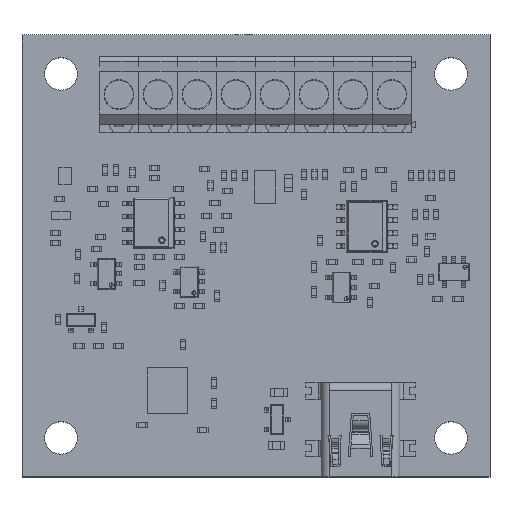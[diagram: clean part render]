
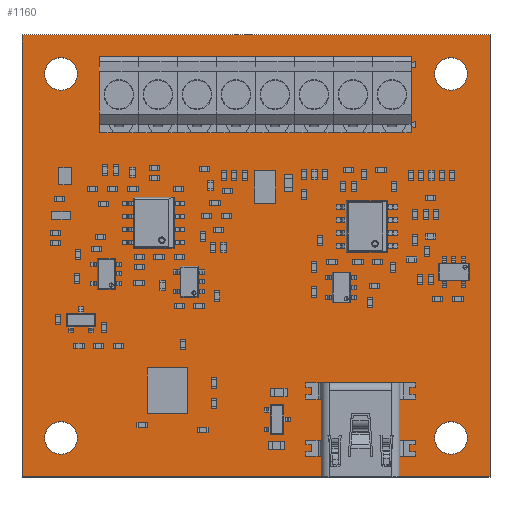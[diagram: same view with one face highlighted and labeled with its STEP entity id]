
A CAD part, top view. The second image highlights one B-rep face of the part: STEP entity #1160.
In plain terms, the highlighted planar face has unit normal (0, 0, 1).
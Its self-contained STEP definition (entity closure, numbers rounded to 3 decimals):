
#495 = VERTEX_POINT('',#496);
#496 = CARTESIAN_POINT('',(25.4,0.,0.));
#502 = EDGE_CURVE('',#495,#503,#505,.T.);
#503 = VERTEX_POINT('',#504);
#504 = CARTESIAN_POINT('',(45.72,0.,0.));
#505 = LINE('',#506,#507);
#506 = CARTESIAN_POINT('',(25.4,0.,0.));
#507 = VECTOR('',#508,1.);
#508 = DIRECTION('',(1.,0.,0.));
#533 = EDGE_CURVE('',#503,#534,#536,.T.);
#534 = VERTEX_POINT('',#535);
#535 = CARTESIAN_POINT('',(45.72,43.18,0.));
#536 = LINE('',#537,#538);
#537 = CARTESIAN_POINT('',(45.72,0.,0.));
#538 = VECTOR('',#539,1.);
#539 = DIRECTION('',(0.,1.,0.));
#564 = EDGE_CURVE('',#534,#565,#567,.T.);
#565 = VERTEX_POINT('',#566);
#566 = CARTESIAN_POINT('',(0.,43.18,0.));
#567 = LINE('',#568,#569);
#568 = CARTESIAN_POINT('',(45.72,43.18,0.));
#569 = VECTOR('',#570,1.);
#570 = DIRECTION('',(-1.,0.,0.));
#595 = EDGE_CURVE('',#565,#596,#598,.T.);
#596 = VERTEX_POINT('',#597);
#597 = CARTESIAN_POINT('',(0.,0.,0.));
#598 = LINE('',#599,#600);
#599 = CARTESIAN_POINT('',(0.,43.18,0.));
#600 = VECTOR('',#601,1.);
#601 = DIRECTION('',(0.,-1.,0.));
#626 = EDGE_CURVE('',#596,#495,#627,.T.);
#627 = LINE('',#628,#629);
#628 = CARTESIAN_POINT('',(0.,0.,0.));
#629 = VECTOR('',#630,1.);
#630 = DIRECTION('',(1.,0.,0.));
#650 = VERTEX_POINT('',#651);
#651 = CARTESIAN_POINT('',(5.398,3.81,0.));
#657 = EDGE_CURVE('',#650,#650,#658,.T.);
#658 = CIRCLE('',#659,1.588);
#659 = AXIS2_PLACEMENT_3D('',#660,#661,#662);
#660 = CARTESIAN_POINT('',(3.81,3.81,0.));
#661 = DIRECTION('',(0.,0.,1.));
#662 = DIRECTION('',(1.,0.,0.));
#683 = VERTEX_POINT('',#684);
#684 = CARTESIAN_POINT('',(13.995,37.211,0.));
#690 = EDGE_CURVE('',#683,#683,#691,.T.);
#691 = CIRCLE('',#692,0.66);
#692 = AXIS2_PLACEMENT_3D('',#693,#694,#695);
#693 = CARTESIAN_POINT('',(13.335,37.211,0.));
#694 = DIRECTION('',(0.,0.,1.));
#695 = DIRECTION('',(1.,0.,0.));
#716 = VERTEX_POINT('',#717);
#717 = CARTESIAN_POINT('',(10.185,37.211,0.));
#723 = EDGE_CURVE('',#716,#716,#724,.T.);
#724 = CIRCLE('',#725,0.66);
#725 = AXIS2_PLACEMENT_3D('',#726,#727,#728);
#726 = CARTESIAN_POINT('',(9.525,37.211,0.));
#727 = DIRECTION('',(0.,0.,1.));
#728 = DIRECTION('',(1.,0.,0.));
#749 = VERTEX_POINT('',#750);
#750 = CARTESIAN_POINT('',(17.805,37.211,0.));
#756 = EDGE_CURVE('',#749,#749,#757,.T.);
#757 = CIRCLE('',#758,0.66);
#758 = AXIS2_PLACEMENT_3D('',#759,#760,#761);
#759 = CARTESIAN_POINT('',(17.145,37.211,0.));
#760 = DIRECTION('',(0.,0.,1.));
#761 = DIRECTION('',(1.,0.,0.));
#782 = VERTEX_POINT('',#783);
#783 = CARTESIAN_POINT('',(5.398,39.37,0.));
#789 = EDGE_CURVE('',#782,#782,#790,.T.);
#790 = CIRCLE('',#791,1.588);
#791 = AXIS2_PLACEMENT_3D('',#792,#793,#794);
#792 = CARTESIAN_POINT('',(3.81,39.37,0.));
#793 = DIRECTION('',(0.,0.,1.));
#794 = DIRECTION('',(1.,0.,0.));
#815 = VERTEX_POINT('',#816);
#816 = CARTESIAN_POINT('',(25.425,37.211,0.));
#822 = EDGE_CURVE('',#815,#815,#823,.T.);
#823 = CIRCLE('',#824,0.66);
#824 = AXIS2_PLACEMENT_3D('',#825,#826,#827);
#825 = CARTESIAN_POINT('',(24.765,37.211,0.));
#826 = DIRECTION('',(0.,0.,1.));
#827 = DIRECTION('',(1.,0.,0.));
#848 = VERTEX_POINT('',#849);
#849 = CARTESIAN_POINT('',(21.615,37.211,0.));
#855 = EDGE_CURVE('',#848,#848,#856,.T.);
#856 = CIRCLE('',#857,0.66);
#857 = AXIS2_PLACEMENT_3D('',#858,#859,#860);
#858 = CARTESIAN_POINT('',(20.955,37.211,0.));
#859 = DIRECTION('',(0.,0.,1.));
#860 = DIRECTION('',(1.,0.,0.));
#881 = VERTEX_POINT('',#882);
#882 = CARTESIAN_POINT('',(31.396,5.985,0.));
#888 = EDGE_CURVE('',#881,#881,#889,.T.);
#889 = CIRCLE('',#890,0.5);
#890 = AXIS2_PLACEMENT_3D('',#891,#892,#893);
#891 = CARTESIAN_POINT('',(30.896,5.985,0.));
#892 = DIRECTION('',(0.,0.,1.));
#893 = DIRECTION('',(1.,0.,0.));
#914 = VERTEX_POINT('',#915);
#915 = CARTESIAN_POINT('',(43.498,3.81,0.));
#921 = EDGE_CURVE('',#914,#914,#922,.T.);
#922 = CIRCLE('',#923,1.588);
#923 = AXIS2_PLACEMENT_3D('',#924,#925,#926);
#924 = CARTESIAN_POINT('',(41.91,3.81,0.));
#925 = DIRECTION('',(0.,0.,1.));
#926 = DIRECTION('',(1.,0.,0.));
#947 = VERTEX_POINT('',#948);
#948 = CARTESIAN_POINT('',(35.796,5.985,0.));
#954 = EDGE_CURVE('',#947,#947,#955,.T.);
#955 = CIRCLE('',#956,0.5);
#956 = AXIS2_PLACEMENT_3D('',#957,#958,#959);
#957 = CARTESIAN_POINT('',(35.296,5.985,0.));
#958 = DIRECTION('',(0.,0.,1.));
#959 = DIRECTION('',(1.,0.,0.));
#980 = VERTEX_POINT('',#981);
#981 = CARTESIAN_POINT('',(33.045,37.211,0.));
#987 = EDGE_CURVE('',#980,#980,#988,.T.);
#988 = CIRCLE('',#989,0.66);
#989 = AXIS2_PLACEMENT_3D('',#990,#991,#992);
#990 = CARTESIAN_POINT('',(32.385,37.211,0.));
#991 = DIRECTION('',(0.,0.,1.));
#992 = DIRECTION('',(1.,0.,0.));
#1013 = VERTEX_POINT('',#1014);
#1014 = CARTESIAN_POINT('',(29.235,37.211,0.));
#1020 = EDGE_CURVE('',#1013,#1013,#1021,.T.);
#1021 = CIRCLE('',#1022,0.66);
#1022 = AXIS2_PLACEMENT_3D('',#1023,#1024,#1025);
#1023 = CARTESIAN_POINT('',(28.575,37.211,0.));
#1024 = DIRECTION('',(0.,0.,1.));
#1025 = DIRECTION('',(1.,0.,0.));
#1046 = VERTEX_POINT('',#1047);
#1047 = CARTESIAN_POINT('',(36.855,37.211,0.));
#1053 = EDGE_CURVE('',#1046,#1046,#1054,.T.);
#1054 = CIRCLE('',#1055,0.66);
#1055 = AXIS2_PLACEMENT_3D('',#1056,#1057,#1058);
#1056 = CARTESIAN_POINT('',(36.195,37.211,0.));
#1057 = DIRECTION('',(0.,0.,1.));
#1058 = DIRECTION('',(1.,0.,0.));
#1079 = VERTEX_POINT('',#1080);
#1080 = CARTESIAN_POINT('',(43.498,39.37,0.));
#1086 = EDGE_CURVE('',#1079,#1079,#1087,.T.);
#1087 = CIRCLE('',#1088,1.588);
#1088 = AXIS2_PLACEMENT_3D('',#1089,#1090,#1091);
#1089 = CARTESIAN_POINT('',(41.91,39.37,0.));
#1090 = DIRECTION('',(0.,0.,1.));
#1091 = DIRECTION('',(1.,0.,0.));
#1160 = ADVANCED_FACE('',(#1161,#1168,#1171,#1174,#1177,#1180,#1183,
    #1186,#1189,#1192,#1195,#1198,#1201,#1204,#1207),#1210,.F.);
#1161 = FACE_BOUND('',#1162,.T.);
#1162 = EDGE_LOOP('',(#1163,#1164,#1165,#1166,#1167));
#1163 = ORIENTED_EDGE('',*,*,#502,.T.);
#1164 = ORIENTED_EDGE('',*,*,#533,.T.);
#1165 = ORIENTED_EDGE('',*,*,#564,.T.);
#1166 = ORIENTED_EDGE('',*,*,#595,.T.);
#1167 = ORIENTED_EDGE('',*,*,#626,.T.);
#1168 = FACE_BOUND('',#1169,.F.);
#1169 = EDGE_LOOP('',(#1170));
#1170 = ORIENTED_EDGE('',*,*,#657,.T.);
#1171 = FACE_BOUND('',#1172,.F.);
#1172 = EDGE_LOOP('',(#1173));
#1173 = ORIENTED_EDGE('',*,*,#690,.T.);
#1174 = FACE_BOUND('',#1175,.F.);
#1175 = EDGE_LOOP('',(#1176));
#1176 = ORIENTED_EDGE('',*,*,#723,.T.);
#1177 = FACE_BOUND('',#1178,.F.);
#1178 = EDGE_LOOP('',(#1179));
#1179 = ORIENTED_EDGE('',*,*,#756,.T.);
#1180 = FACE_BOUND('',#1181,.F.);
#1181 = EDGE_LOOP('',(#1182));
#1182 = ORIENTED_EDGE('',*,*,#789,.T.);
#1183 = FACE_BOUND('',#1184,.F.);
#1184 = EDGE_LOOP('',(#1185));
#1185 = ORIENTED_EDGE('',*,*,#822,.T.);
#1186 = FACE_BOUND('',#1187,.F.);
#1187 = EDGE_LOOP('',(#1188));
#1188 = ORIENTED_EDGE('',*,*,#855,.T.);
#1189 = FACE_BOUND('',#1190,.F.);
#1190 = EDGE_LOOP('',(#1191));
#1191 = ORIENTED_EDGE('',*,*,#888,.T.);
#1192 = FACE_BOUND('',#1193,.F.);
#1193 = EDGE_LOOP('',(#1194));
#1194 = ORIENTED_EDGE('',*,*,#921,.T.);
#1195 = FACE_BOUND('',#1196,.F.);
#1196 = EDGE_LOOP('',(#1197));
#1197 = ORIENTED_EDGE('',*,*,#954,.T.);
#1198 = FACE_BOUND('',#1199,.F.);
#1199 = EDGE_LOOP('',(#1200));
#1200 = ORIENTED_EDGE('',*,*,#987,.T.);
#1201 = FACE_BOUND('',#1202,.F.);
#1202 = EDGE_LOOP('',(#1203));
#1203 = ORIENTED_EDGE('',*,*,#1020,.T.);
#1204 = FACE_BOUND('',#1205,.F.);
#1205 = EDGE_LOOP('',(#1206));
#1206 = ORIENTED_EDGE('',*,*,#1053,.T.);
#1207 = FACE_BOUND('',#1208,.F.);
#1208 = EDGE_LOOP('',(#1209));
#1209 = ORIENTED_EDGE('',*,*,#1086,.T.);
#1210 = PLANE('',#1211);
#1211 = AXIS2_PLACEMENT_3D('',#1212,#1213,#1214);
#1212 = CARTESIAN_POINT('',(25.4,0.,0.));
#1213 = DIRECTION('',(0.,0.,-1.));
#1214 = DIRECTION('',(-1.,0.,0.));
